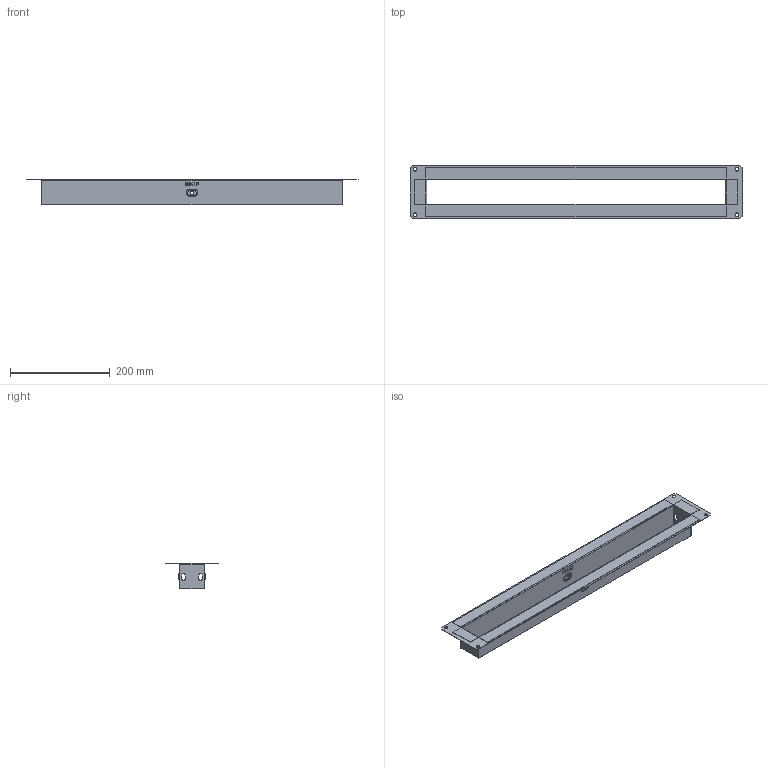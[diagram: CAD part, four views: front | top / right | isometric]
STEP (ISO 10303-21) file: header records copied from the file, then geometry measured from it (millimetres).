
FILE_DESCRIPTION (( 'STEP AP203' ), '1' );
FILE_NAME ('f50600_捘.STEP', '2020-01-23T12:33:01', ( '' ), ( '' ), 'SwSTEP 2.0', 'SolidWorks 2016', '' );
FILE_SCHEMA (( 'CONFIG_CONTROL_DESIGN' ));
Length unit declared in the file: millimetre
Products named in the file (9): f50600_2; f50300_3; f50600_1; f50600_捘
Assembly tree (5 placements, depth 2):
  f50600_2
  f50600_2
  f50300_3
  f50300_3
  f50600_捘
    f50600_1
    f50600_2  x2
    f50300_3  x2
Bounding box: 665 x 105 x 51.5 mm (x, y, z)
Volume: 108464.8 mm3; surface area: 276215.4 mm2
Topology: 5 solids, 5 shells, 306 faces, 792 edges, 512 vertices
Faces by surface type: plane 212, cylinder 60, bspline 18, torus 16
Entity records: 6262 total; most frequent: CARTESIAN_POINT 1358, ORIENTED_EDGE 852, DIRECTION 816, EDGE_CURVE 426, LINE 328, VECTOR 328, VERTEX_POINT 276, AXIS2_PLACEMENT_3D 244
